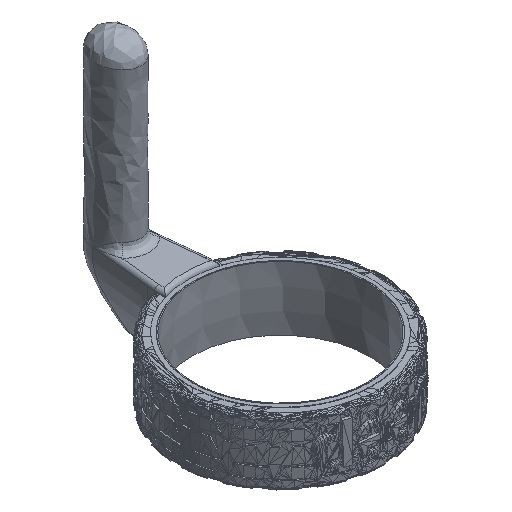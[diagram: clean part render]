
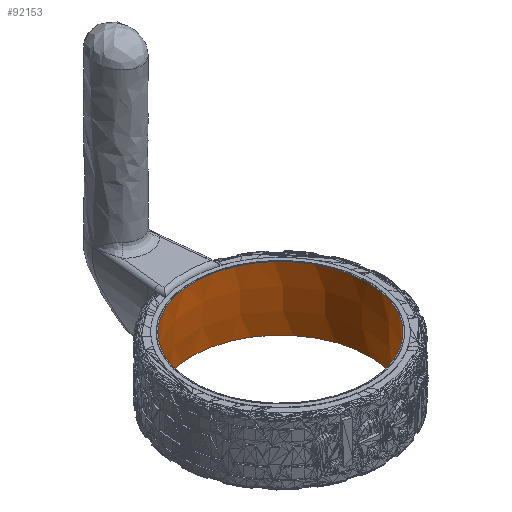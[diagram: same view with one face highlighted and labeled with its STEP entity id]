
A CAD part, isometric view. The second image highlights one B-rep face of the part: STEP entity #92153.
In plain terms, the highlighted conical face has half-angle 1.771 degrees and reference radius 44 mm.
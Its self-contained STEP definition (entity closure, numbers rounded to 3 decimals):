
#20=CONICAL_SURFACE('',#99345,44.,0.031);
#47100=ORIENTED_EDGE('',*,*,#58932,.T.);
#47101=ORIENTED_EDGE('',*,*,#47284,.F.);
#47102=ORIENTED_EDGE('',*,*,#47249,.F.);
#47103=ORIENTED_EDGE('',*,*,#47834,.F.);
#47104=ORIENTED_EDGE('',*,*,#47282,.F.);
#47105=ORIENTED_EDGE('',*,*,#47288,.F.);
#47106=ORIENTED_EDGE('',*,*,#47117,.F.);
#47107=ORIENTED_EDGE('',*,*,#47864,.F.);
#47108=ORIENTED_EDGE('',*,*,#58853,.F.);
#47109=ORIENTED_EDGE('',*,*,#47141,.F.);
#47110=ORIENTED_EDGE('',*,*,#47851,.F.);
#47111=ORIENTED_EDGE('',*,*,#47853,.F.);
#47112=ORIENTED_EDGE('',*,*,#47854,.F.);
#47113=ORIENTED_EDGE('',*,*,#47300,.F.);
#47114=ORIENTED_EDGE('',*,*,#47203,.F.);
#47115=ORIENTED_EDGE('',*,*,#47307,.F.);
#47116=ORIENTED_EDGE('',*,*,#47845,.F.);
#47117=EDGE_CURVE('',#58933,#58934,#63630,.T.);
#47141=EDGE_CURVE('',#58957,#58958,#63634,.T.);
#47203=EDGE_CURVE('',#59019,#59020,#63646,.T.);
#47249=EDGE_CURVE('',#59065,#59066,#63651,.T.);
#47282=EDGE_CURVE('',#59083,#59084,#63652,.T.);
#47284=EDGE_CURVE('',#59066,#59085,#63653,.T.);
#47288=EDGE_CURVE('',#58934,#59083,#63654,.T.);
#47300=EDGE_CURVE('',#59020,#59094,#63655,.T.);
#47307=EDGE_CURVE('',#59099,#59019,#63656,.T.);
#47834=EDGE_CURVE('',#59084,#59065,#63659,.T.);
#47845=EDGE_CURVE('',#59085,#59099,#63662,.T.);
#47851=EDGE_CURVE('',#59468,#58957,#63663,.T.);
#47853=EDGE_CURVE('',#59469,#59468,#63664,.T.);
#47854=EDGE_CURVE('',#59094,#59469,#63665,.T.);
#47864=EDGE_CURVE('',#59474,#58933,#63666,.T.);
#58853=EDGE_CURVE('',#58958,#59474,#63667,.T.);
#58932=EDGE_CURVE('',#63629,#63629,#63671,.F.);
#58933=VERTEX_POINT('',#125352);
#58934=VERTEX_POINT('',#125353);
#58957=VERTEX_POINT('',#125401);
#58958=VERTEX_POINT('',#125402);
#59019=VERTEX_POINT('',#125526);
#59020=VERTEX_POINT('',#125527);
#59065=VERTEX_POINT('',#125670);
#59066=VERTEX_POINT('',#125671);
#59083=VERTEX_POINT('',#125737);
#59084=VERTEX_POINT('',#125739);
#59085=VERTEX_POINT('',#125743);
#59094=VERTEX_POINT('',#125773);
#59099=VERTEX_POINT('',#125786);
#59468=VERTEX_POINT('',#127097);
#59469=VERTEX_POINT('',#127101);
#59474=VERTEX_POINT('',#127122);
#63629=VERTEX_POINT('',#150695);
#63630=CIRCLE('',#92168,44.);
#63634=CIRCLE('',#92173,44.);
#63646=CIRCLE('',#92186,44.);
#63651=CIRCLE('',#92192,44.);
#63652=CIRCLE('',#92209,44.);
#63653=CIRCLE('',#92211,44.);
#63654=CIRCLE('',#92214,44.);
#63655=CIRCLE('',#92223,44.);
#63656=CIRCLE('',#92227,44.);
#63659=CIRCLE('',#92387,44.);
#63662=CIRCLE('',#92400,44.);
#63663=CIRCLE('',#92403,44.);
#63664=CIRCLE('',#92405,44.);
#63665=CIRCLE('',#92407,44.);
#63666=CIRCLE('',#92413,44.);
#63667=CIRCLE('',#99286,44.);
#63671=CIRCLE('',#99339,43.);
#70803=EDGE_LOOP('',(#47100));
#70804=EDGE_LOOP('',(#47101,#47102,#47103,#47104,#47105,#47106,#47107,#47108,
#47109,#47110,#47111,#47112,#47113,#47114,#47115,#47116));
#77940=FACE_BOUND('',#70803,.T.);
#77941=FACE_BOUND('',#70804,.T.);
#92153=ADVANCED_FACE('',(#77940,#77941),#20,.F.);
#92168=AXIS2_PLACEMENT_3D('',#125351,#99350,#99351);
#92173=AXIS2_PLACEMENT_3D('',#125400,#99380,#99381);
#92186=AXIS2_PLACEMENT_3D('',#125525,#99456,#99457);
#92192=AXIS2_PLACEMENT_3D('',#125669,#99501,#99502);
#92209=AXIS2_PLACEMENT_3D('',#125738,#99560,#99561);
#92211=AXIS2_PLACEMENT_3D('',#125742,#99565,#99566);
#92214=AXIS2_PLACEMENT_3D('',#125750,#99573,#99574);
#92223=AXIS2_PLACEMENT_3D('',#125772,#99598,#99599);
#92227=AXIS2_PLACEMENT_3D('',#125787,#99611,#99612);
#92387=AXIS2_PLACEMENT_3D('',#127066,#100407,#100408);
#92400=AXIS2_PLACEMENT_3D('',#127085,#100438,#100439);
#92403=AXIS2_PLACEMENT_3D('',#127098,#100448,#100449);
#92405=AXIS2_PLACEMENT_3D('',#127102,#100453,#100454);
#92407=AXIS2_PLACEMENT_3D('',#127104,#100457,#100458);
#92413=AXIS2_PLACEMENT_3D('',#127123,#100477,#100478);
#99286=AXIS2_PLACEMENT_3D('',#149101,#125210,#125211);
#99339=AXIS2_PLACEMENT_3D('',#150694,#125335,#125336);
#99345=AXIS2_PLACEMENT_3D('',#150701,#125347,#125348);
#99350=DIRECTION('',(0.,0.,1.));
#99351=DIRECTION('',(1.,0.,0.));
#99380=DIRECTION('',(0.,0.,1.));
#99381=DIRECTION('',(1.,0.,0.));
#99456=DIRECTION('',(0.,0.,1.));
#99457=DIRECTION('',(1.,0.,0.));
#99501=DIRECTION('',(0.,0.,1.));
#99502=DIRECTION('',(1.,0.,0.));
#99560=DIRECTION('',(0.,0.,1.));
#99561=DIRECTION('',(-0.971,0.239,0.));
#99565=DIRECTION('',(0.,0.,1.));
#99566=DIRECTION('',(-0.971,0.239,0.));
#99573=DIRECTION('',(0.,0.,1.));
#99574=DIRECTION('',(-0.971,0.239,0.));
#99598=DIRECTION('',(0.,0.,1.));
#99599=DIRECTION('',(-0.971,0.239,0.));
#99611=DIRECTION('',(0.,0.,1.));
#99612=DIRECTION('',(-0.971,0.239,0.));
#100407=DIRECTION('',(0.,0.,1.));
#100408=DIRECTION('',(-0.971,0.239,0.));
#100438=DIRECTION('',(0.,0.,1.));
#100439=DIRECTION('',(-0.971,0.239,0.));
#100448=DIRECTION('',(0.,0.,1.));
#100449=DIRECTION('',(-0.971,0.239,0.));
#100453=DIRECTION('',(0.,0.,1.));
#100454=DIRECTION('',(-0.971,0.239,0.));
#100457=DIRECTION('',(0.,0.,1.));
#100458=DIRECTION('',(-0.971,0.239,0.));
#100477=DIRECTION('',(0.,0.,1.));
#100478=DIRECTION('',(-0.971,0.239,0.));
#125210=DIRECTION('',(0.,0.,1.));
#125211=DIRECTION('',(-0.971,0.239,0.));
#125335=DIRECTION('',(0.,0.,-1.));
#125336=DIRECTION('',(1.,0.,0.));
#125347=DIRECTION('',(0.,0.,-1.));
#125348=DIRECTION('',(-1.,0.,0.));
#125351=CARTESIAN_POINT('',(7.735,-15.533,0.));
#125352=CARTESIAN_POINT('',(21.262,-57.402,0.));
#125353=CARTESIAN_POINT('',(48.723,-31.532,0.));
#125400=CARTESIAN_POINT('',(7.735,-15.533,0.));
#125401=CARTESIAN_POINT('',(-27.816,10.393,0.));
#125402=CARTESIAN_POINT('',(20.084,-57.764,0.));
#125525=CARTESIAN_POINT('',(7.735,-15.533,0.));
#125526=CARTESIAN_POINT('',(49.221,-0.874,0.));
#125527=CARTESIAN_POINT('',(-24.389,14.535,0.));
#125669=CARTESIAN_POINT('',(7.735,-15.533,0.));
#125670=CARTESIAN_POINT('',(49.559,-29.199,0.));
#125671=CARTESIAN_POINT('',(49.76,-2.498,0.));
#125737=CARTESIAN_POINT('',(48.749,-31.464,0.));
#125738=CARTESIAN_POINT('',(7.735,-15.533,0.));
#125739=CARTESIAN_POINT('',(49.336,-29.864,0.));
#125742=CARTESIAN_POINT('',(7.735,-15.533,0.));
#125743=CARTESIAN_POINT('',(49.427,-1.471,0.));
#125750=CARTESIAN_POINT('',(7.735,-15.533,0.));
#125772=CARTESIAN_POINT('',(7.735,-15.533,0.));
#125773=CARTESIAN_POINT('',(-24.426,14.495,0.));
#125786=CARTESIAN_POINT('',(49.224,-0.882,0.));
#125787=CARTESIAN_POINT('',(7.735,-15.533,0.));
#127066=CARTESIAN_POINT('',(7.735,-15.533,0.));
#127085=CARTESIAN_POINT('',(7.735,-15.533,0.));
#127097=CARTESIAN_POINT('',(-26.686,11.875,0.));
#127098=CARTESIAN_POINT('',(7.735,-15.533,0.));
#127101=CARTESIAN_POINT('',(-25.628,13.154,0.));
#127102=CARTESIAN_POINT('',(7.735,-15.533,0.));
#127104=CARTESIAN_POINT('',(7.735,-15.533,0.));
#127122=CARTESIAN_POINT('',(21.25,-57.406,0.));
#127123=CARTESIAN_POINT('',(7.735,-15.533,0.));
#149101=CARTESIAN_POINT('',(7.735,-15.533,0.));
#150694=CARTESIAN_POINT('',(7.735,-15.533,32.35));
#150695=CARTESIAN_POINT('',(50.735,-15.533,32.35));
#150701=CARTESIAN_POINT('',(7.735,-15.533,0.));
